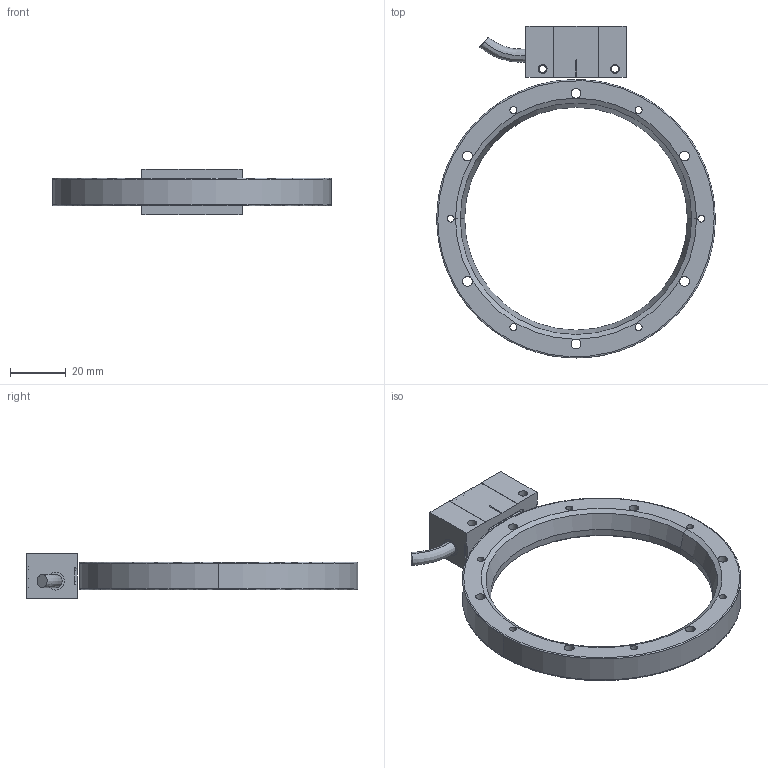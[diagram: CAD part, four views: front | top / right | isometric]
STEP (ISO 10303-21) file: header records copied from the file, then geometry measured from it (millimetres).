
FILE_DESCRIPTION (( 'STEP AP214' ), '1' );
FILE_NAME ('橈勤硉埴掑100郪磁.STEP', '2021-08-19T02:48:59', ( '' ), ( '' ), 'SwSTEP 2.0', 'SolidWorks 2016', '' );
FILE_SCHEMA (( 'AUTOMOTIVE_DESIGN' ));
Length unit declared in the file: millimetre
Products named in the file (3): 埴嫖掑馱璃_100; 橈勤硉埴掑100郪磁; 橈勤硉俋倛_2
Assembly tree (2 placements, depth 2):
  橈勤硉埴掑100郪磁
    橈勤硉俋倛_2
    埴嫖掑馱璃_100
Bounding box: 100 x 119.2 x 16.5 mm (x, y, z)
Volume: 35519.8 mm3; surface area: 17451.9 mm2
Topology: 6 solids, 6 shells, 180 faces, 452 edges, 295 vertices
Faces by surface type: cylinder 96, plane 68, cone 10, bspline 6
Entity records: 8234 total; most frequent: CARTESIAN_POINT 1590, DIRECTION 1006, ORIENTED_EDGE 896, EDGE_CURVE 448, AXIS2_PLACEMENT_3D 395, VERTEX_POINT 295, EDGE_LOOP 229, VECTOR 216
